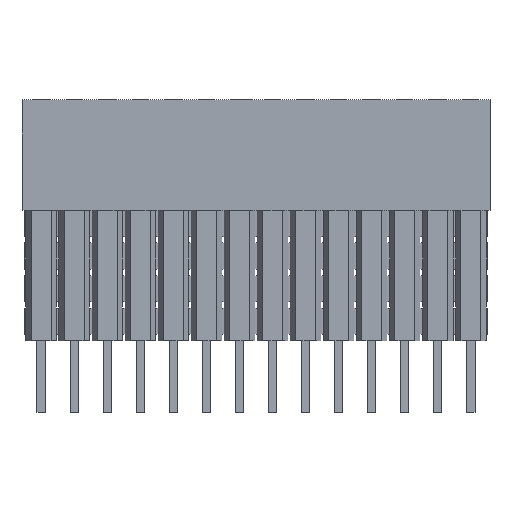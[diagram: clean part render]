
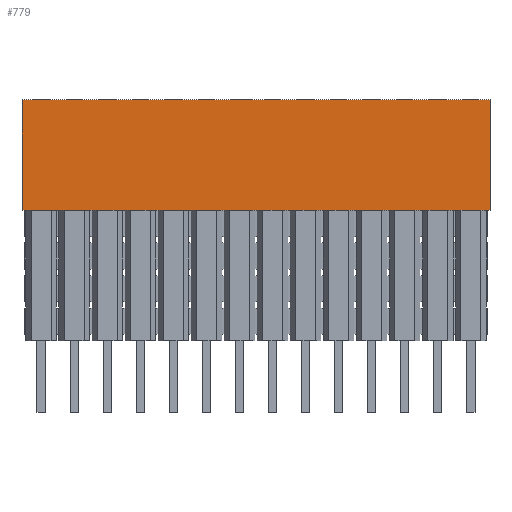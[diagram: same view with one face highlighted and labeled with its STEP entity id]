
A CAD part, top view. The second image highlights one B-rep face of the part: STEP entity #779.
In plain terms, the highlighted planar face has unit normal (0, 0, 1).
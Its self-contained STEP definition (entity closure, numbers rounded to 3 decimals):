
#779=ADVANCED_FACE('',(#2351),#1569,.T.);
#1569=PLANE('',#17638);
#2351=FACE_OUTER_BOUND('',#3251,.T.);
#3251=EDGE_LOOP('',(#7171,#7172,#7173,#7174));
#7171=ORIENTED_EDGE('',*,*,#11626,.F.);
#7172=ORIENTED_EDGE('',*,*,#11627,.T.);
#7173=ORIENTED_EDGE('',*,*,#11623,.T.);
#7174=ORIENTED_EDGE('',*,*,#11628,.T.);
#9431=VERTEX_POINT('',#25379);
#9432=VERTEX_POINT('',#25380);
#9433=VERTEX_POINT('',#25385);
#9434=VERTEX_POINT('',#25386);
#11623=EDGE_CURVE('',#9431,#9432,#14047,.T.);
#11626=EDGE_CURVE('',#9433,#9434,#14050,.T.);
#11627=EDGE_CURVE('',#9433,#9431,#14051,.T.);
#11628=EDGE_CURVE('',#9432,#9434,#14052,.T.);
#14047=LINE('',#25378,#16471);
#14050=LINE('',#25384,#16474);
#14051=LINE('',#25387,#16475);
#14052=LINE('',#25388,#16476);
#16471=VECTOR('',#20858,1.);
#16474=VECTOR('',#20863,1.);
#16475=VECTOR('',#20864,1.);
#16476=VECTOR('',#20865,1.);
#17638=AXIS2_PLACEMENT_3D('',#25389,#20866,#20867);
#20858=DIRECTION('',(1.,0.,0.));
#20863=DIRECTION('',(1.,0.,0.));
#20864=DIRECTION('',(0.,-1.,0.));
#20865=DIRECTION('',(0.,1.,0.));
#20866=DIRECTION('',(0.,0.,1.));
#20867=DIRECTION('',(-1.,0.,0.));
#25378=CARTESIAN_POINT('',(-38.1,0.,0.02));
#25379=CARTESIAN_POINT('',(-40.64,0.,0.02));
#25380=CARTESIAN_POINT('',(-4.68,0.,0.02));
#25384=CARTESIAN_POINT('',(-38.1,8.5,0.02));
#25385=CARTESIAN_POINT('',(-40.64,8.5,0.02));
#25386=CARTESIAN_POINT('',(-4.68,8.5,0.02));
#25387=CARTESIAN_POINT('',(-40.64,0.,0.02));
#25388=CARTESIAN_POINT('',(-4.68,0.,0.02));
#25389=CARTESIAN_POINT('',(-38.1,0.,0.02));
